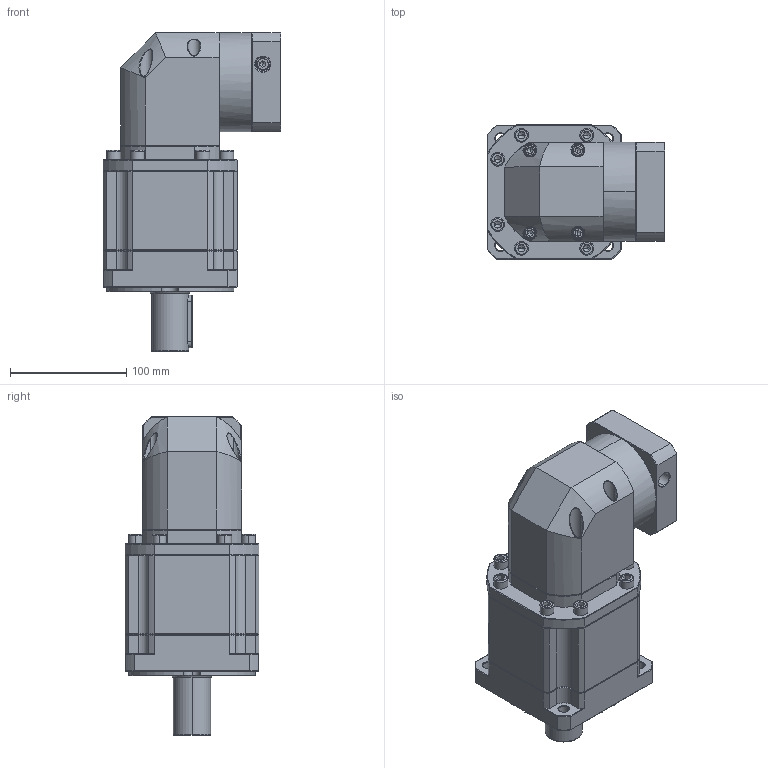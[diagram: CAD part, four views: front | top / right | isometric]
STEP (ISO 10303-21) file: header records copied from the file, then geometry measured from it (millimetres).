
FILE_DESCRIPTION (( 'STEP AP214' ), '1' );
FILE_NAME ('ZBR115A-D32-L3-P2-12.7-73-69.6X69.6-M6.step', '2023-08-26T13:35:03', ( '' ), ( '' ), 'SwSTEP 2.0', 'SolidWorks 2016', '' );
FILE_SCHEMA (( 'AUTOMOTIVE_DESIGN' ));
Length unit declared in the file: millimetre
Products named in the file (1): ZBR115A-D32-L3-P2-12.7-73-69.6X69.6-M6
Bounding box: 152.6 x 115 x 273.5 mm (x, y, z)
Volume: 2282380.8 mm3; surface area: 189922.3 mm2
Topology: 6 solids, 6 shells, 2594 faces, 6712 edges, 4227 vertices
Faces by surface type: plane 1281, cylinder 476, bspline 451, cone 372, torus 14
Entity records: 137411 total; most frequent: CARTESIAN_POINT 49464, ORIENTED_EDGE 13316, DIRECTION 10684, EDGE_CURVE 6658, VECTOR 4280, LINE 4280, VERTEX_POINT 4227, AXIS2_PLACEMENT_3D 3202
